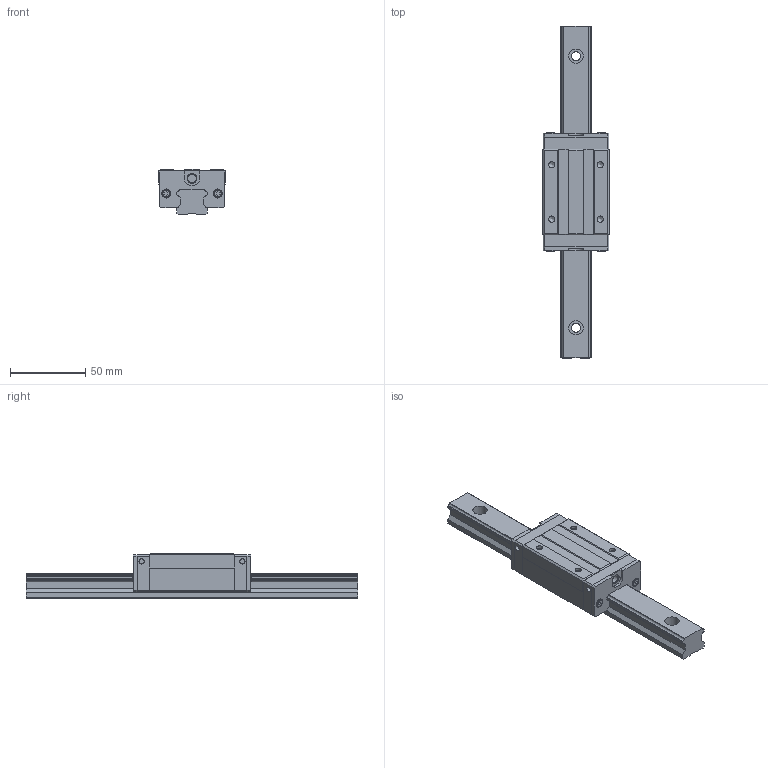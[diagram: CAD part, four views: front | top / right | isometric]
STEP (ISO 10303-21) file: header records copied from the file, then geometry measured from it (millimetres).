
FILE_DESCRIPTION( ( 'Unknown' ), '1' );
FILE_NAME( '//Sbc-server/力前/档搁包府/力前档搁/力前档(Rev.2007)/脚力前 俺惯 橇肺璃飘/2008.09.01 脚力前 SBI 15-25 俺惯 [TFT]/墨呕肺弊/3D 墨呕肺弊/SBI 20/STP/SBI 20 SL.stp', 'Unknown', ( 'Unknown' ), ( 'Unknown' ), 'XStep 1.0', 'Unknown', ' ' );
FILE_SCHEMA( ( 'automotive_design' ) );
Length unit declared in the file: millimetre
Products named in the file (7): Assem1; 20-RAIL; SBI 20 SL
Bounding box: 44 x 220 x 30 mm (x, y, z)
Volume: 244130.2 mm3; surface area: 81012.1 mm2
Topology: 12 solids, 12 shells, 700 faces, 1824 edges, 1208 vertices
Faces by surface type: plane 520, cylinder 128, extrusion 36, cone 8, torus 8
Full cylindrical faces by diameter (mm): 3.5 x24, 4.134 x16, 5.5 x8, 5.7 x4, 6 x16, 6.5 x4, 9.5 x8
Entity records: 11585 total; most frequent: CARTESIAN_POINT 2682, ORIENTED_EDGE 1692, DIRECTION 1570, EDGE_CURVE 846, VECTOR 628, LINE 610, VERTEX_POINT 592, AXIS2_PLACEMENT_3D 471
